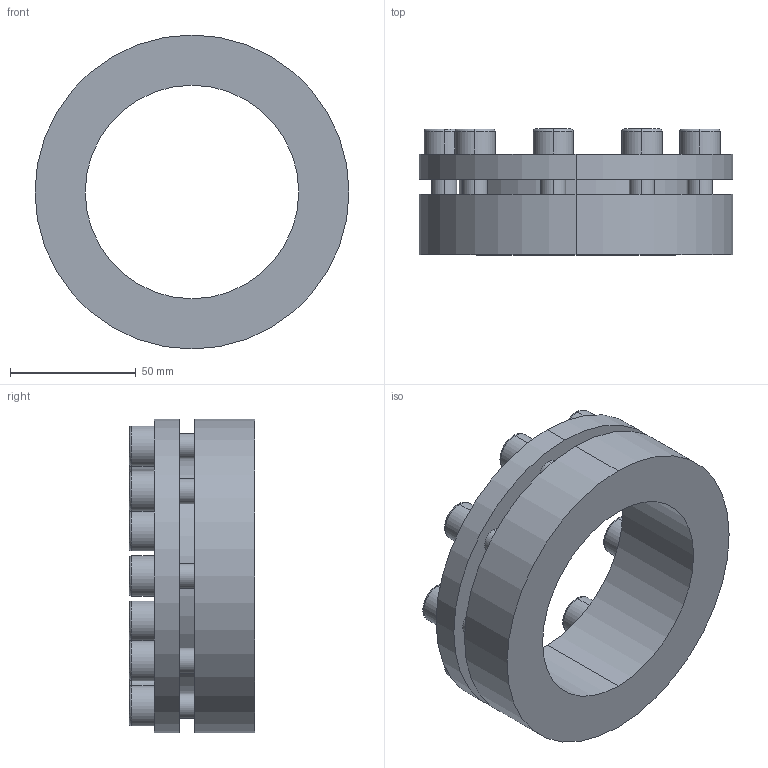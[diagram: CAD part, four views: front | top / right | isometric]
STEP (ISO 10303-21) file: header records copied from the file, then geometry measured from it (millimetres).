
FILE_DESCRIPTION (( 'STEP AP203' ), '1' );
FILE_NAME ('PL-H3 85-125.STEP', '2021-10-23T01:09:22', ( '' ), ( '' ), 'SwSTEP 2.0', 'SolidWorks 2018', '' );
FILE_SCHEMA (( 'CONFIG_CONTROL_DESIGN' ));
Length unit declared in the file: millimetre
Products named in the file (1): PL-H3 85-125
Bounding box: 125 x 50 x 125 mm (x, y, z)
Volume: 250768.4 mm3; surface area: 55794.3 mm2
Topology: 1 solids, 1 shells, 138 faces, 330 edges, 214 vertices
Faces by surface type: plane 76, cylinder 44, torus 18
Entity records: 4131 total; most frequent: DIRECTION 732, CARTESIAN_POINT 683, ORIENTED_EDGE 660, EDGE_CURVE 330, AXIS2_PLACEMENT_3D 263, VERTEX_POINT 214, VECTOR 206, LINE 206
